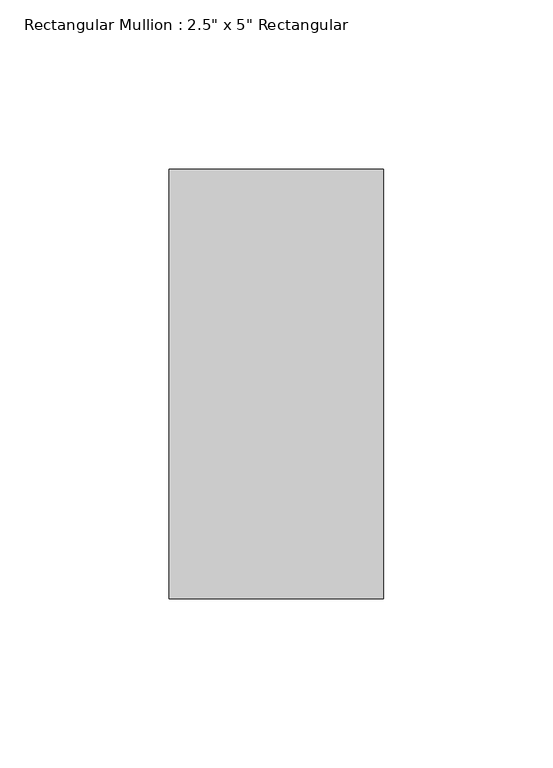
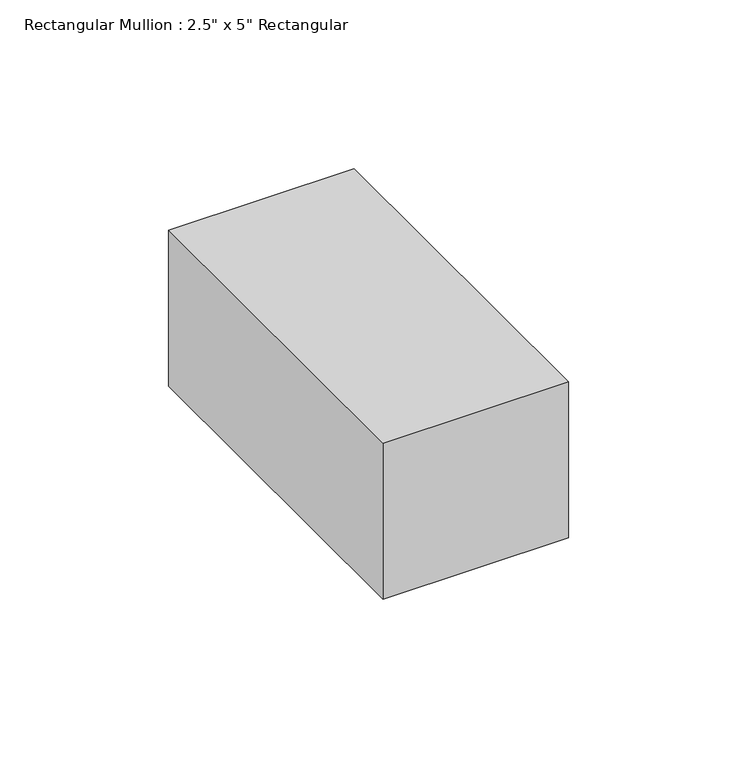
"""IFC4 building model written with IfcOpenShell, lengths in millimetres: member geometry."""

from ifc_helpers import new_model, si_unit, frame, origin, place, context, project, spatial, polyline, outline, extrude, source, transform, mapped, element, save


def member_3c314d05(model_context):
    return source(origin(), model_context, "Body", "SweptSolid", [
        extrude(outline(polyline([(31.75, 63.5), (31.75, -63.5), (-31.75, -63.5), (-31.75, 63.5), (31.75, 63.5)])), frame((0.0, 0.0, -56.4894414), z_axis=(0.0, 0.0, 1.0), x_axis=(1.0, 0.0, 0.0)), (0.0, 0.0, 1.0), 56.4894414),
    ])


if __name__ == "__main__":
    model = new_model("IFC4")
    model_context = context("Model", 3, world=origin())
    ifc_project = project(units=[si_unit("LENGTHUNIT", "METRE", prefix="MILLI")], contexts=[model_context])
    site = spatial("IfcSite", under=ifc_project)
    building = spatial("IfcBuilding", under=site)
    placement = place(None, origin())
    member_shape = member_3c314d05(model_context)
    element("IfcMember", 1, ObjectType="Rectangular Mullion : 2.5\" x 5\" Rectangular", at=placement, inside=building, context=model_context, shape_type="MappedRepresentation", body=[
        mapped(member_shape, transform((0.0, 0.0, 0.0), x_axis=(1.0, 0.0, 0.0), y_axis=(0.0, 1.0, 0.0), z_axis=(0.0, 0.0, 1.0))),
    ])
    save(model, "model.ifc")
